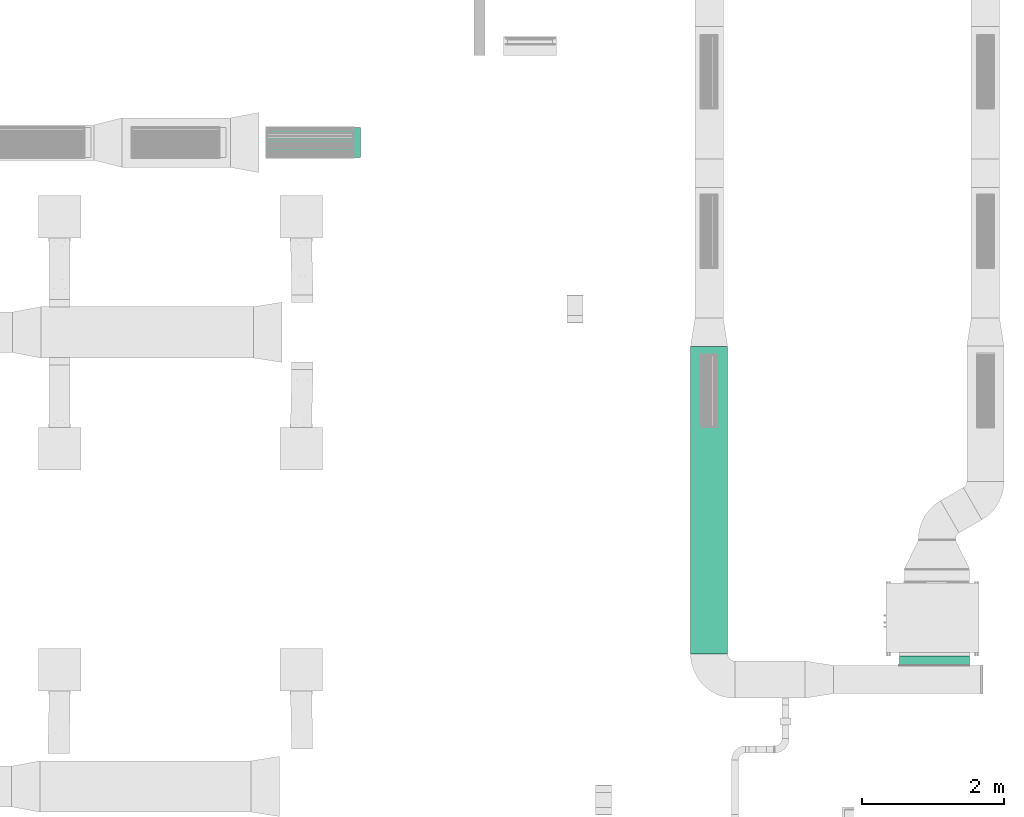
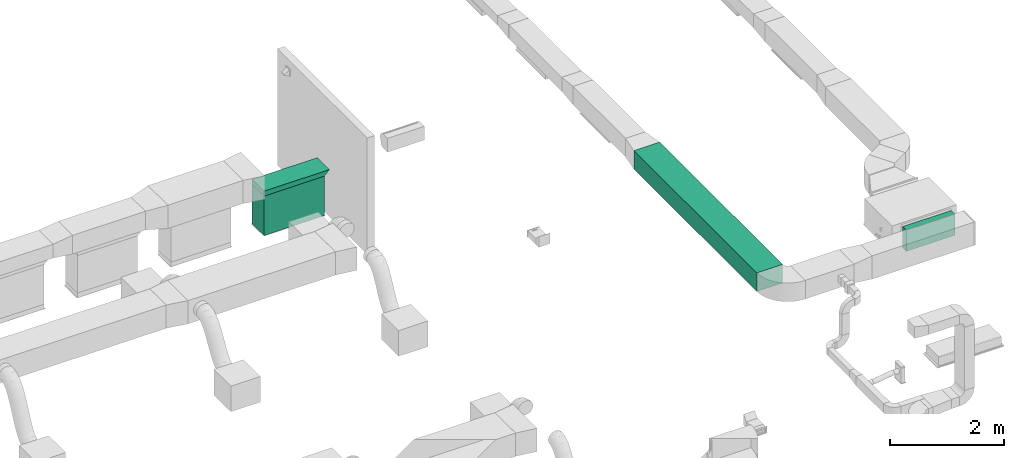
# One storey, part 12 of 60: 3 flow segments, 1 flow fitting.
"""IFC2X3 building model written with IfcOpenShell, lengths in millimetres."""

from ifc_helpers import new_model, entity, si_unit, converted_unit, derived_unit, direction, frame, frame_2d, origin, origin_2d_with_axis, place, context, subcontext, project, spatial, polyline, rectangle, outline, extrude, source, transform, mapped, material, type_object, type_shapes, element, save


model = new_model("IFC2X3")

# Units and contexts
model_context = context("Model", 3, precision=0.01, world=origin(), true_north=direction((6.123233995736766e-17, 1.0)))
body_context = subcontext(model_context, "Body", "Model", "MODEL_VIEW")
ifc_project = project(units=[si_unit("LENGTHUNIT", "METRE", prefix="MILLI"), converted_unit("PLANEANGLEUNIT", "DEGREE", entity("IfcPlaneAngleMeasure", 0.017453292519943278), si_unit("PLANEANGLEUNIT", "RADIAN"), dimensions=[0, 0, 0, 0, 0, 0, 0]), si_unit("AREAUNIT", "SQUARE_METRE"), derived_unit("THERMALTRANSMITTANCEUNIT", [(si_unit("MASSUNIT", "GRAM", prefix="KILO"), 1), (si_unit("THERMODYNAMICTEMPERATUREUNIT", "KELVIN"), -1), (si_unit("TIMEUNIT", "SECOND"), -3)])], contexts=[model_context])

# Site, building, storey
site_placement = place(None, origin())
site = spatial("IfcSite", under=ifc_project, at=site_placement, Name="Default", CompositionType="ELEMENT")
building_placement = place(site_placement, origin())
building = spatial("IfcBuilding", under=site, at=building_placement, Name="Praça Pedro II, 1301 - Centro (Sul), Teresina - PI, 64001-100", CompositionType="ELEMENT")
storey_placement = place(building_placement, frame((0.0, 0.0, 6040.0)))
storey = spatial("IfcBuildingStorey", under=building, at=storey_placement, Name="2PAV", CompositionType="ELEMENT", Elevation=6040.0)

# Flow segments
duct_segment_type = type_object("IfcDuctSegmentType", Name="Duto retangular:Raios cotovelos / torneiras", PredefinedType="NOTDEFINED")
flow_segment_1_placement = place(storey_placement, origin())
element("IfcFlowSegment", 1, at=flow_segment_1_placement, inside=storey, type_object=duct_segment_type, Name="Duto retangular:Raios cotovelos / torneiras", ObjectType="Duto retangular:Raios cotovelos / torneiras", context=body_context, shape_type="SweptSolid", body=[
    extrude(rectangle(XDim=425.00000000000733, YDim=1224.9999999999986, at=origin_2d_with_axis()), frame((30046.911295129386, -55571.293902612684, 2300.0), z_axis=(0.0, 0.0, 1.0), x_axis=(0.0, -1.0, 0.0)), (0.0, 0.0, 1.0), 849.9999999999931),
])
flow_segment_2_placement = place(storey_placement, origin())
element("IfcFlowSegment", 2, at=flow_segment_2_placement, inside=storey, type_object=duct_segment_type, Name="Duto retangular:Raios cotovelos / torneiras", ObjectType="Duto retangular:Raios cotovelos / torneiras", context=body_context, shape_type="SweptSolid", body=[
    extrude(rectangle(XDim=129.0252757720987, YDim=990.0000000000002, at=frame_2d((-4.334310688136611e-12, -4.348521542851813e-12), x_axis=(1.0, 0.0))), frame((38857.87117506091, -62882.76286209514, 3179.0), z_axis=(0.0, 0.0, 1.0), x_axis=(0.0, -1.0, 0.0)), (0.0, 0.0, 1.0), 456.0000000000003),
])
flow_segment_3_placement = place(storey_placement, origin())
element("IfcFlowSegment", 3, at=flow_segment_3_placement, inside=storey, type_object=duct_segment_type, Name="Duto retangular:Raios cotovelos / torneiras", ObjectType="Duto retangular:Raios cotovelos / torneiras", context=body_context, shape_type="SweptSolid", body=[
    extrude(rectangle(XDim=4337.499999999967, YDim=525.0000000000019, at=frame_2d((4.320099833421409e-12, 2.1600499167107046e-12), x_axis=(1.0, 0.0))), frame((35678.62107154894, -60617.0254999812, 3250.0), z_axis=(0.0, 0.0, 1.0), x_axis=(0.0, -1.0, 0.0)), (0.0, 0.0, 1.0), 400.0),
])

# Flow fitting
ifc_material = material(Name="<Unnamed>")
duct_fitting_type = type_object("IfcDuctFittingType", Name="M_Rectangular Tap - Beveled:Standard", PredefinedType="NOTDEFINED", material=ifc_material)
shared_shape = source(origin(), body_context, "Body", "SweptSolid", [
    extrude(outline(polyline([(-62.43840000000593, -775.0), (43.657600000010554, -775.0), (43.65760000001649, 550.0), (37.561599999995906, 550.0), (-62.438400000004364, 450.0), (-62.43840000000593, -775.0)])), frame((37.561599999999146, -162.50000000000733, -212.49999999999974), z_axis=(0.0, 0.0, 1.0), x_axis=(-1.0, 0.0, 0.0)), (0.0, 0.0, 1.0), 424.99999999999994),
])
type_shapes(duct_fitting_type, [shared_shape])
flow_fitting_placement = place(storey_placement, frame((30046.911295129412, -55571.293902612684, 3250.0), z_axis=(0.0, 1.0, 0.0), x_axis=(0.0, 0.0, -1.0)))
element("IfcFlowFitting", 4, at=flow_fitting_placement, inside=storey, type_object=duct_fitting_type, material=ifc_material, Name="M_Rectangular Tap - Beveled:Standard", ObjectType="M_Rectangular Tap - Beveled:Standard", context=body_context, shape_type="MappedRepresentation", body=[
    mapped(shared_shape, transform((0.0, 0.0, 0.0), scale=1.0)),
])

save(model, "model.ifc")
